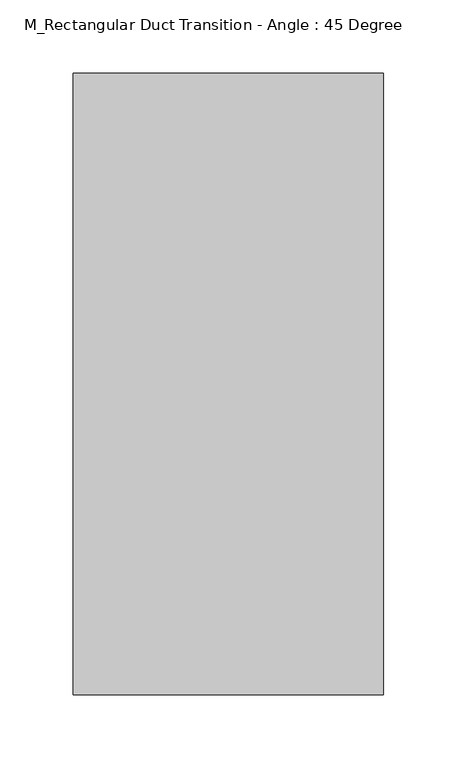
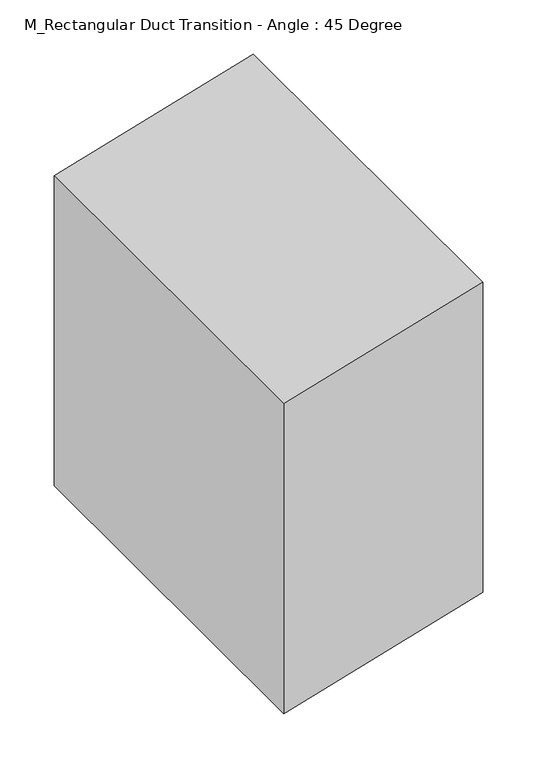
"""IFC4 building model written with IfcOpenShell, lengths in millimetres: duct fitting geometry, M_Rectangular Duct Transition - Angle : 45 Degree."""

from ifc_helpers import new_model, si_unit, frame, origin, place, context, project, spatial, polyline, outline, extrude, source, transform, mapped, element, save


def m_rectangular_duct_transition_angle_45_degree_094bc15e(model_context):
    return source(origin(), model_context, "Body", "SweptSolid", [
        extrude(outline(polyline([(175.0, 0.0), (-175.0, 0.0), (-112.1, 212.5), (237.9, 212.5), (175.0, 0.0)])), frame((0.0, -212.5, 0.0), z_axis=(0.0, 1.0, 0.0), x_axis=(0.0, 0.0, 1.0)), (0.0, 0.0, 1.0), 425.0),
        extrude(outline(polyline([(175.0, 0.0), (-175.0, 0.0), (-112.1, 212.5), (237.9, 212.5), (175.0, 0.0)])), frame((0.0, -212.5, 0.0), z_axis=(0.0, 1.0, 0.0), x_axis=(0.0, 0.0, 1.0)), (0.0, 0.0, 1.0), 425.0),
        extrude(outline(polyline([(175.0, 0.0), (-175.0, 0.0), (-112.1, 212.5), (237.9, 212.5), (175.0, 0.0)])), frame((0.0, -212.5, 0.0), z_axis=(0.0, 1.0, 0.0), x_axis=(0.0, 0.0, 1.0)), (0.0, 0.0, 1.0), 425.0),
    ])


if __name__ == "__main__":
    model = new_model("IFC4")
    model_context = context("Model", 3, world=origin())
    ifc_project = project(units=[si_unit("LENGTHUNIT", "METRE", prefix="MILLI")], contexts=[model_context])
    site = spatial("IfcSite", under=ifc_project)
    building = spatial("IfcBuilding", under=site)
    placement = place(None, origin())
    m_rectangular_duct_transition_angle_45_degree_shape = m_rectangular_duct_transition_angle_45_degree_094bc15e(model_context)
    element("IfcDuctFitting", 1, ObjectType="M_Rectangular Duct Transition - Angle : 45 Degree", at=placement, inside=building, context=model_context, shape_type="MappedRepresentation", body=[
        mapped(m_rectangular_duct_transition_angle_45_degree_shape, transform((0.0, 0.0, 0.0), x_axis=(1.0, 0.0, 0.0), y_axis=(0.0, 1.0, 0.0), z_axis=(0.0, 0.0, 1.0))),
    ])
    save(model, "model.ifc")
